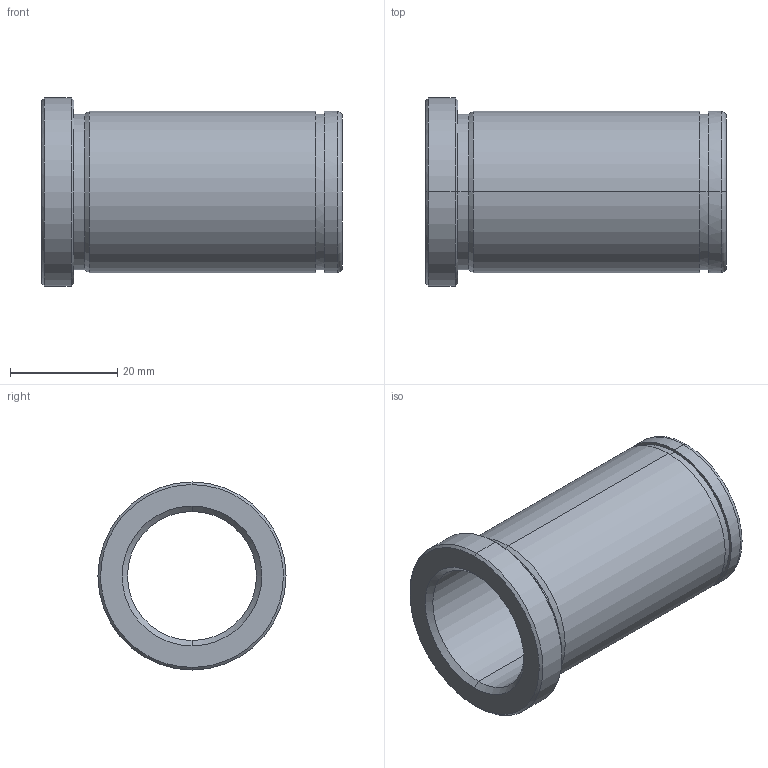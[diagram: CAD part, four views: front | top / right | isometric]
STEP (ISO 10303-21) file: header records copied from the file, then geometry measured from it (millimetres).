
FILE_DESCRIPTION(('CATIA V5 STEP Exchange'),'2;1');
FILE_NAME('C:\Users\Utente\Desktop\IO LAVORO\3D X SITO CF\X SITO\PLASTICA\553\553-24X56.stp','2021-05-25T18:21:48+00:00',('none'),('none'),'CATIA Version 5 Release 20 GA (IN-10)','CATIA V5 STEP AP203','none');
FILE_SCHEMA(('CONFIG_CONTROL_DESIGN'));
Length unit declared in the file: millimetre
Products named in the file (1): 553-24X56
Bounding box: 56 x 35 x 35 mm (x, y, z)
Volume: 15471.4 mm3; surface area: 10556.3 mm2
Topology: 1 solids, 1 shells, 29 faces, 92 edges, 68 vertices
Faces by surface type: cylinder 12, cone 8, plane 5, torus 4
Entity records: 1222 total; most frequent: CARTESIAN_POINT 368, ORIENTED_EDGE 184, DIRECTION 136, EDGE_CURVE 92, AXIS2_PLACEMENT_3D 88, VERTEX_POINT 68, CIRCLE 58, EDGE_LOOP 34
